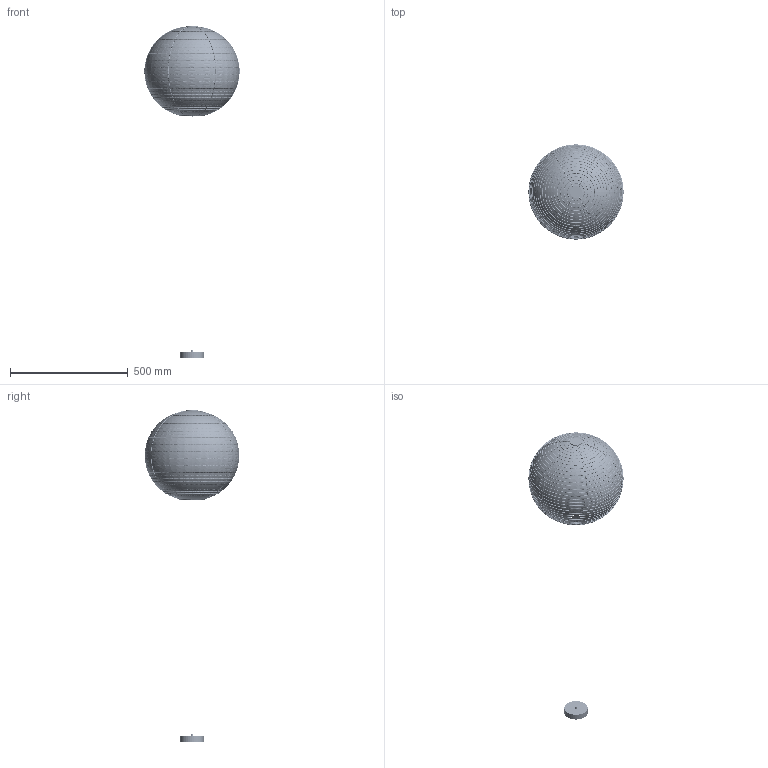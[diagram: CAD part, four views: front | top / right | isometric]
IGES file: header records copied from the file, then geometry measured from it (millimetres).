
Start section: SolidWorks IGES file using analytic representation for surfaces
Global section: file name: F:\燠隴矨\3D\6堎\Rice Paper 45A Pendant Lamp-D40.IGS; native system: SolidWorks 2022; preprocessor: SolidWorks 2022; author: MyPC; date: 230630.093444; units: millimetre
Bounding box: 405.32 x 404.56 x 1412.33 mm (x, y, z)
Surface area: 1203265.9 mm2 (no closed solid volume)
Topology: 0 solids, 0 shells, 403 faces, 3288 edges, 3287 vertices
Faces by surface type: bspline 363, revolution 40
